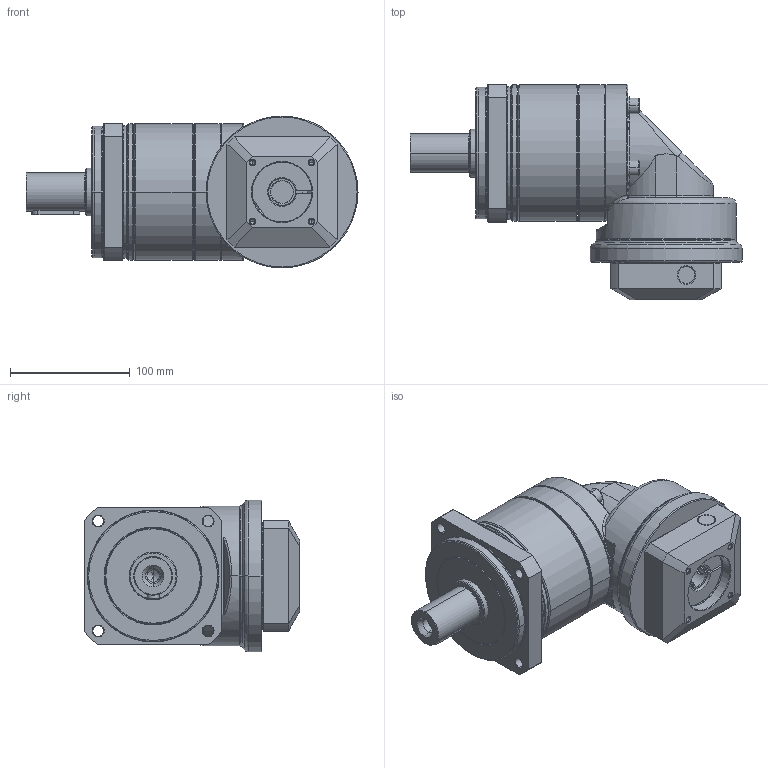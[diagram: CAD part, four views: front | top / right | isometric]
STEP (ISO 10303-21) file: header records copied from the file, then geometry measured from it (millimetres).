
FILE_DESCRIPTION((''),'2;1');
FILE_NAME('PA2R-115_1ST_19-P0411400101_ASM','2016-05-12T',('d01943'),(''),'PRO/ENGINEER BY PARAMETRIC TECHNOLOGY CORPORATION, 2008410','PRO/ENGINEER BY PARAMETRIC TECHNOLOGY CORPORATION, 2008410','');
FILE_SCHEMA(('CONFIG_CONTROL_DESIGN'));
Length unit declared in the file: millimetre
Products named in the file (12): P1327410001; P0250400001; P0350400601; P1349400001; P1017400001; P0713400001; P0503400008; P1350400001; P0411400101; P1702500001; 2111B108035; PA2R-115_1ST_19-P0411400101_ASM
Assembly tree (14 placements, depth 2):
  PA2R-115_1ST_19-P0411400101_ASM
    P1327410001
    P0250400001
    P0350400601
    P1349400001
    P1017400001
    P0713400001
    P0503400008
    P1350400001
    P0411400101
    P1702500001
    2111B108035  x4
Bounding box: 277.5 x 180 x 127 mm (x, y, z)
Volume: 1639464.2 mm3; surface area: 323056.9 mm2
Topology: 14 solids, 14 shells, 723 faces, 1596 edges, 922 vertices
Faces by surface type: cylinder 212, cone 210, plane 167, torus 102, bspline 32
Entity records: 23073 total; most frequent: CARTESIAN_POINT 9092, DIRECTION 3082, ORIENTED_EDGE 2716, EDGE_CURVE 1358, AXIS2_PLACEMENT_3D 1297, VERTEX_POINT 802, EDGE_LOOP 704, CIRCLE 679
